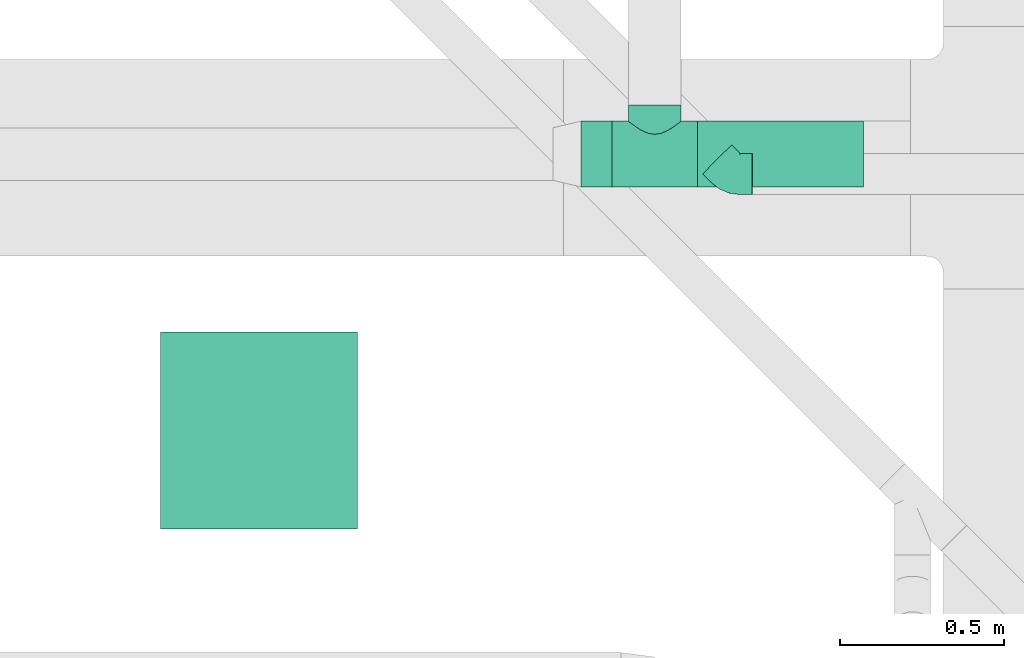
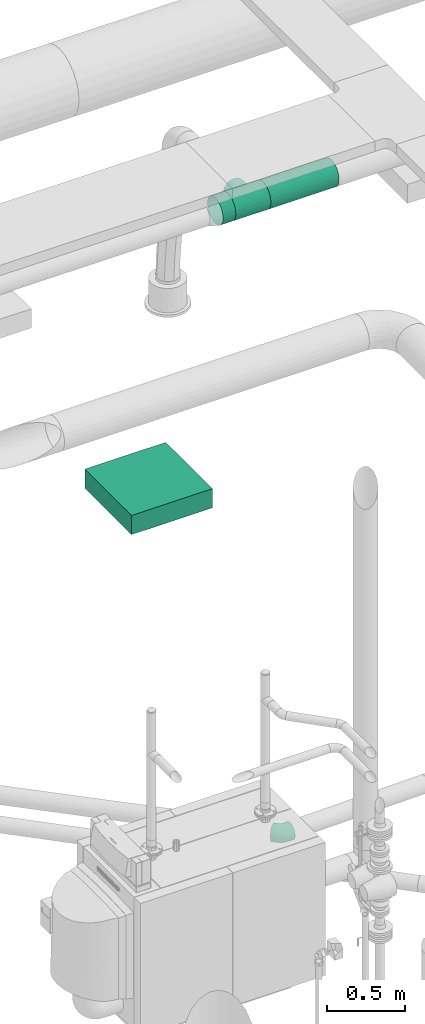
# One storey, part 167 of 374: 2 flow fittings, 2 flow segments, 1 distribution element.
"""IFC2X3 building model written with IfcOpenShell, lengths in metres."""

import ifcopenshell
import ifcopenshell.guid

model = None  # the IFC model being written
_history = None  # IfcOwnerHistory: only IFC2X3 demands one
_inside = {}  # id of a spatial element -> (the spatial element, [elements in it])
_under = {}  # id of a project, library or spatial element -> (it, [spatial elements below it])
_declared = {}  # id of a project -> (the project, [libraries it declares])
_typed = {}  # id of a type object -> (the type object, [elements of that type])
_made_of = {}  # id of a material, layer set ... -> (it, [elements and type objects made of it])


def new_model(schema):
    """Start an empty IFC model of exactly this schema.

    Asked for "IFC4X3", IfcOpenShell would pick the latest addendum, in which some entities
    have other attributes; the version numbers below select the first issue.
    IFC2X3 requires an IfcOwnerHistory on every rooted entity: one is made here for all.
    """
    global model, _history
    if schema == "IFC4X3":
        model = ifcopenshell.file(schema_version=(4, 3, 0, 0))
    else:
        model = ifcopenshell.file(schema=schema)
    _inside.clear()
    _under.clear()
    _declared.clear()
    _typed.clear()
    _made_of.clear()
    _history = None
    if model.schema == "IFC2X3":
        org = make("IfcOrganization", Name="unknown")
        user = make(
            "IfcPersonAndOrganization",
            ThePerson=make("IfcPerson", FamilyName="unknown"),
            TheOrganization=org,
        )
        app = make(
            "IfcApplication",
            ApplicationDeveloper=org,
            Version="unknown",
            ApplicationFullName="unknown",
            ApplicationIdentifier="unknown",
        )
        _history = make(
            "IfcOwnerHistory",
            OwningUser=user,
            OwningApplication=app,
            ChangeAction="ADDED",
            CreationDate=0,
        )
    return model


def make(cls, **values):
    """One entity of the class cls with the attributes given. An attribute that is None is left unset."""
    return model.create_entity(
        cls, **{name: value for name, value in values.items() if value is not None}
    )


def rooted(cls, **values):
    """An entity with a GlobalId (a new one), such as an element, a storey or a relation."""
    return make(cls, GlobalId=ifcopenshell.guid.new(), OwnerHistory=_history, **values)


def si_unit(unit_type, name, prefix=None):
    """IfcSIUnit, for example si_unit("LENGTHUNIT", "METRE", prefix="MILLI")."""
    return make("IfcSIUnit", UnitType=unit_type, Prefix=prefix, Name=name)


def assignment(units):
    """IfcUnitAssignment: the units of a project."""
    return None if units is None else make("IfcUnitAssignment", Units=units)


def point(xyz):
    """IfcCartesianPoint."""
    return None if xyz is None else make("IfcCartesianPoint", Coordinates=xyz)


def direction(xyz):
    """IfcDirection."""
    return None if xyz is None else make("IfcDirection", DirectionRatios=xyz)


def frame(location, z_axis=None, x_axis=None):
    """IfcAxis2Placement3D, a coordinate frame: its origin and axes. An axis left out is left unset."""
    return make(
        "IfcAxis2Placement3D",
        Location=point(location),
        Axis=direction(z_axis),
        RefDirection=direction(x_axis),
    )


def frame_2d(location, x_axis=None):
    """IfcAxis2Placement2D, a coordinate frame in the plane: its origin and x axis."""
    return make(
        "IfcAxis2Placement2D", Location=point(location), RefDirection=direction(x_axis)
    )


def origin():
    """The frame at (0, 0, 0) with its axes left unset."""
    return frame((0.0, 0.0, 0.0))


def place(relative_to, where):
    """IfcLocalPlacement: puts the frame where relative to a parent placement (None: the world)."""
    return make(
        "IfcLocalPlacement", PlacementRelTo=relative_to, RelativePlacement=where
    )


def context(
    kind, dimensions, precision=None, world=None, true_north=None, identifier=None
):
    """IfcGeometricRepresentationContext, for example the 3D "Model" context."""
    return make(
        "IfcGeometricRepresentationContext",
        ContextIdentifier=identifier,
        ContextType=kind,
        CoordinateSpaceDimension=dimensions,
        Precision=precision,
        WorldCoordinateSystem=world,
        TrueNorth=true_north,
    )


def subcontext(parent, identifier, kind, view, scale=None):
    """IfcGeometricRepresentationSubContext, for example "Body" below "Model"."""
    return make(
        "IfcGeometricRepresentationSubContext",
        ContextIdentifier=identifier,
        ContextType=kind,
        ParentContext=parent,
        TargetScale=scale,
        TargetView=view,
    )


def project(units=None, contexts=None):
    """IfcProject with its units and contexts."""
    return rooted(
        "IfcProject",
        Name="project",
        RepresentationContexts=contexts,
        UnitsInContext=assignment(units),
    )


def spatial(cls, under=None, at=None, **own):
    """A site, building, storey or space (cls), placed at a placement, below another one or the project."""
    s = rooted(cls, ObjectPlacement=at, **own)
    if under is not None:
        _under.setdefault(under.id(), (under, []))[1].append(s)
    return s


def profile(cls, at=None, kind="AREA", **sizes):
    """A parametric profile (cls). Its sizes go by their IFC names, for example OverallWidth=200.0."""
    return make(cls, ProfileType=kind, Position=at, **sizes)


def rectangle(**sizes):
    """IfcRectangleProfileDef."""
    return profile("IfcRectangleProfileDef", **sizes)


def extrude(swept, where, along, depth):
    """IfcExtrudedAreaSolid: the profile swept, set in the frame where, extruded along a direction by depth."""
    return make(
        "IfcExtrudedAreaSolid",
        SweptArea=swept,
        Position=where,
        ExtrudedDirection=direction(along),
        Depth=depth,
    )


def faces_of(points, faces, orient=None, outer=None):
    """IfcFace entities. A face is a list of loops; a loop is a list of indices into points, from 0.

    orient and outer hold one flag for each loop. By default every Orientation is true, the
    first loop of a face is its IfcFaceOuterBound and the others are IfcFaceBound.
    """
    made = []
    for i, loops in enumerate(faces):
        bounds = []
        for j, loop in enumerate(loops):
            is_outer = j == 0 if outer is None else outer[i][j]
            bounds.append(
                make(
                    "IfcFaceOuterBound" if is_outer else "IfcFaceBound",
                    Bound=make("IfcPolyLoop", Polygon=[points[k] for k in loop]),
                    Orientation=True if orient is None else orient[i][j],
                )
            )
        made.append(make("IfcFace", Bounds=bounds))
    return made


def open_shell(faces, orient=None, outer=None):
    """The faces of one IfcOpenShell. surface_model builds it on its shared points."""
    return ("IfcOpenShell", faces, orient, outer)


def surface_model(cls, points, shells):
    """IfcFaceBasedSurfaceModel or IfcShellBasedSurfaceModel (cls): surfaces that need not close."""
    shared = [point(p) for p in points]
    made = [make(c, CfsFaces=faces_of(shared, fs, o, b)) for c, fs, o, b in shells]
    if cls == "IfcFaceBasedSurfaceModel":
        return make(cls, FbsmFaces=made)
    return make(cls, SbsmBoundary=made)


def shape(context_of_items, identifier, shape_type, items):
    """IfcShapeRepresentation: the items that make up one representation, for example the "Body"."""
    return make(
        "IfcShapeRepresentation",
        ContextOfItems=context_of_items,
        RepresentationIdentifier=identifier,
        RepresentationType=shape_type,
        Items=items,
    )


def source(mapping_origin, context_of_items, identifier, shape_type, items):
    """IfcRepresentationMap: a shape defined once, which mapped items show again and again."""
    return make(
        "IfcRepresentationMap",
        MappingOrigin=mapping_origin,
        MappedRepresentation=shape(context_of_items, identifier, shape_type, items),
    )


def transform(
    local_origin,
    x_axis=None,
    y_axis=None,
    z_axis=None,
    scale=None,
    scale2=None,
    scale3=None,
    uniform=True,
):
    """IfcCartesianTransformationOperator3D, or its non-uniform kind. x_axis, y_axis, z_axis: its Axis1, 2, 3."""
    if uniform:
        return make(
            "IfcCartesianTransformationOperator3D",
            Axis1=direction(x_axis),
            Axis2=direction(y_axis),
            LocalOrigin=point(local_origin),
            Scale=scale,
            Axis3=direction(z_axis),
        )
    return make(
        "IfcCartesianTransformationOperator3DnonUniform",
        Axis1=direction(x_axis),
        Axis2=direction(y_axis),
        LocalOrigin=point(local_origin),
        Scale=scale,
        Axis3=direction(z_axis),
        Scale2=scale2,
        Scale3=scale3,
    )


def mapped(mapping_source, mapping_target):
    """IfcMappedItem: shows the shape of a source again, moved by a transform."""
    return make(
        "IfcMappedItem", MappingSource=mapping_source, MappingTarget=mapping_target
    )


def made_of(thing, what):
    """Note that an element or type object is made of a material, layer set ...; save() writes the relation."""
    if what is not None:
        _made_of.setdefault(what.id(), (what, []))[1].append(thing)
    return thing


def element(
    cls,
    number,
    at=None,
    inside=None,
    cuts=None,
    type_object=None,
    material=None,
    context=None,
    identifier="Body",
    shape_type=None,
    held_by="IfcProductDefinitionShape",
    body=None,
    shapes=None,
    **own,
):
    """One element of the class cls, such as IfcWall. Its Tag is "e" and its number.

    at: its placement. inside: the storey or other place that contains it. cuts: it is an
    opening in that element (IfcRelVoidsElement). A single representation is given by context,
    identifier, shape_type and body (its items); several are given by shapes. held_by: the class
    of the entity that holds the representations. save() writes the other relations.
    """
    e = rooted(cls, Tag="e%d" % number, ObjectPlacement=at, **own)
    if body is not None:
        shapes = [shape(context, identifier, shape_type, body)]
    if shapes is not None:
        e.Representation = make(held_by, Representations=shapes)
    if inside is not None:
        _inside.setdefault(inside.id(), (inside, []))[1].append(e)
    if cuts is not None:
        rooted(
            "IfcRelVoidsElement", RelatingBuildingElement=cuts, RelatedOpeningElement=e
        )
    if type_object is not None:
        _typed.setdefault(type_object.id(), (type_object, []))[1].append(e)
    return made_of(e, material)


def aggregate(whole, parts):
    """IfcRelAggregates: a whole, such as a stair, and the parts it consists of."""
    return rooted("IfcRelAggregates", RelatingObject=whole, RelatedObjects=parts)


def save(model, path):
    """Write the relations noted so far, then the file.

    IfcRelAggregates (storeys below a building ...), IfcRelContainedInSpatialStructure (elements
    in a storey), IfcRelDefinesByType, IfcRelAssociatesMaterial and IfcRelDeclares: one each for
    every whole, place, type object, material and project.
    """
    for whole, parts in _under.values():
        aggregate(whole, parts)
    for where, things in _inside.values():
        rooted(
            "IfcRelContainedInSpatialStructure",
            RelatedElements=things,
            RelatingStructure=where,
        )
    for kind, things in _typed.values():
        rooted("IfcRelDefinesByType", RelatedObjects=things, RelatingType=kind)
    for what, things in _made_of.values():
        rooted("IfcRelAssociatesMaterial", RelatedObjects=things, RelatingMaterial=what)
    for by, libraries in _declared.values():
        rooted("IfcRelDeclares", RelatingContext=by, RelatedDefinitions=libraries)
    model.write(path)


model = new_model("IFC2X3")

# Units and contexts
model_context = context("Model", 3, precision=1e-05, world=origin(), true_north=direction((-0.4480736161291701, 0.8939966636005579)))
body_context = subcontext(model_context, "Body", "Model", "MODEL_VIEW")
ifc_project = project(units=[si_unit("LENGTHUNIT", "METRE"), si_unit("AREAUNIT", "SQUARE_METRE"), si_unit("VOLUMEUNIT", "CUBIC_METRE"), si_unit("PLANEANGLEUNIT", "RADIAN"), si_unit("THERMODYNAMICTEMPERATUREUNIT", "KELVIN"), si_unit("MASSUNIT", "GRAM", prefix="KILO"), si_unit("TIMEUNIT", "SECOND")], contexts=[model_context])

# Site, building, storey
site_placement = place(None, origin())
site = spatial("IfcSite", under=ifc_project, at=site_placement, Name="Site 1", CompositionType="ELEMENT")
building_placement = place(site_placement, origin())
building = spatial("IfcBuilding", under=site, at=building_placement, Name="Undefined", CompositionType="ELEMENT")
storey_placement = place(building_placement, origin())
storey = spatial("IfcBuildingStorey", under=building, at=storey_placement, Name="Rez de chauss\x8ee", CompositionType="ELEMENT", Elevation=0.0)

# Flow segments
shared_shape_1 = source(origin(), body_context, "Body", "SurfaceModel", [
    surface_model("IfcFaceBasedSurfaceModel", [(0.0, 0.02610523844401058, 0.0), (0.0, 0.0, 0.0), (0.09500000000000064, -7.105427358e-15, 0.0), (0.09500000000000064, 0.02610523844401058, 0.0), (0.0, -0.025215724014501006, -0.006756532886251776), (0.09500000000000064, -0.025215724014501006, -0.006756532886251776), (0.0, -0.04782352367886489, -0.019809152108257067), (0.09500000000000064, -0.04782352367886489, -0.019809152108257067), (0.0, -0.066282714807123, -0.038268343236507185), (0.09500000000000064, -0.066282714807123, -0.038268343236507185), (0.0, -0.07933533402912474, -0.06087614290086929), (0.09500000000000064, -0.07933533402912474, -0.06087614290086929), (0.0, -0.08609186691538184, -0.08609186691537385), (0.09500000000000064, -0.08609186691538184, -0.08609186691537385), (0.0, -0.08609186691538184, -0.11219710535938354), (0.09500000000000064, -0.08609186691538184, -0.11219710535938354), (0.0, -0.07933533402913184, -0.1374128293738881), (0.09500000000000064, -0.07933533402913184, -0.1374128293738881), (0.0, -0.066282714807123, -0.16002062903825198), (0.09500000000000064, -0.066282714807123, -0.16002062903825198), (0.0, -0.04782352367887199, -0.17847982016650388), (0.09500000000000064, -0.04782352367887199, -0.17847982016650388), (0.0, -0.025215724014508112, -0.19153243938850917), (0.09500000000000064, -0.025215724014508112, -0.19153243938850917), (0.0, -7.105427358e-15, -0.19828897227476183), (0.09500000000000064, -7.105427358e-15, -0.19828897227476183), (0.0, 0.026105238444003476, -0.19828897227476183), (0.09500000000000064, 0.026105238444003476, -0.19828897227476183), (0.0, 0.05132096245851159, -0.19153243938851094), (0.09500000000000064, 0.05132096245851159, -0.19153243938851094), (0.0, 0.07392876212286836, -0.17847982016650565), (0.09500000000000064, 0.07392876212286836, -0.17847982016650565), (0.0, 0.09238795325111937, -0.16002062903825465), (0.09500000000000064, 0.09238795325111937, -0.16002062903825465), (0.0, 0.10544057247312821, -0.13741282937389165), (0.09500000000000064, 0.10544057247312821, -0.13741282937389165), (0.0, 0.11219710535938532, -0.11219710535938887), (0.09500000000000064, 0.11219710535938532, -0.11219710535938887), (0.0, 0.11219710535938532, -0.08609186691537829), (0.09500000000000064, 0.11219710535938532, -0.08609186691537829), (0.0, 0.10544057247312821, -0.06087614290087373), (0.09500000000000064, 0.10544057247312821, -0.06087614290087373), (0.0, 0.09238795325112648, -0.03826834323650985), (0.09500000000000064, 0.09238795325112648, -0.03826834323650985), (0.0, 0.07392876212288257, -0.019809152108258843), (0.09500000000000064, 0.07392876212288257, -0.019809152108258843), (0.0, 0.05132096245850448, -0.006756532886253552), (0.09500000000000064, 0.05132096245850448, -0.006756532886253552)], [open_shell([[[0, 1, 2, 3]], [[1, 4, 5, 2]], [[4, 6, 7, 5]], [[6, 8, 9, 7]], [[8, 10, 11, 9]], [[10, 12, 13, 11]], [[12, 14, 15, 13]], [[14, 16, 17, 15]], [[16, 18, 19, 17]], [[18, 20, 21, 19]], [[20, 22, 23, 21]], [[22, 24, 25, 23]], [[24, 26, 27, 25]], [[26, 28, 29, 27]], [[28, 30, 31, 29]], [[30, 32, 33, 31]], [[32, 34, 35, 33]], [[34, 36, 37, 35]], [[36, 38, 39, 37]], [[38, 40, 41, 39]], [[40, 42, 43, 41]], [[42, 44, 45, 43]], [[44, 46, 47, 45]], [[46, 0, 3, 47]]])]),
])
flow_segment_1_placement = place(storey_placement, origin())
element("IfcFlowSegment", 1, at=flow_segment_1_placement, inside=storey, Name="Manchon", ObjectType="Manchon", context=body_context, shape_type="MappedRepresentation", body=[
    mapped(shared_shape_1, transform((56.1592401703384, 15.980880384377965, 3.8965925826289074), x_axis=(-1.0, 0.0, 0.0), y_axis=(7.266545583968e-12, -0.9914448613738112, 0.13052619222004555), z_axis=(0.0, 0.13052619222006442, 0.9914448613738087))),
])
shared_shape_2 = source(origin(), body_context, "Body", "SurfaceModel", [
    surface_model("IfcFaceBasedSurfaceModel", [(0.0, 0.02610523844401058, 0.0), (0.0, 0.0, 0.0), (0.5060000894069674, 4.4408921e-16, 4.4408921e-16), (0.5060000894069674, 0.026105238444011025, 0.0), (0.0, -0.025215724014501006, -0.006756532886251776), (0.5060000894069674, -0.02521572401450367, -0.006756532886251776), (0.0, -0.04782352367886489, -0.019809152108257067), (0.5060000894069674, -0.04782352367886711, -0.019809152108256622), (0.0, -0.066282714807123, -0.038268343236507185), (0.5060000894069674, -0.06628271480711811, -0.03826834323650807), (0.0, -0.07933533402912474, -0.06087614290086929), (0.5060000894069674, -0.0793353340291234, -0.060876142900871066), (0.0, -0.08609186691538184, -0.08609186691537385), (0.5060000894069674, -0.08609186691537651, -0.08609186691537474), (0.0, -0.08609186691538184, -0.11219710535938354), (0.5060000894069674, -0.08609186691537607, -0.11219710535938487), (0.0, -0.07933533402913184, -0.1374128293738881), (0.5060000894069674, -0.0793353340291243, -0.137412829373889), (0.0, -0.066282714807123, -0.16002062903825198), (0.5060000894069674, -0.06628271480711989, -0.16002062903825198), (0.0, -0.04782352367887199, -0.17847982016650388), (0.5060000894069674, -0.04782352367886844, -0.17847982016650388), (0.0, -0.025215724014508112, -0.19153243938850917), (0.5060000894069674, -0.025215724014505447, -0.19153243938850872), (0.0, -7.105427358e-15, -0.19828897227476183), (0.5060000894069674, -8.8817842e-16, -0.1982889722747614), (0.0, 0.026105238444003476, -0.19828897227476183), (0.5060000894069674, 0.026105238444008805, -0.19828897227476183), (0.0, 0.05132096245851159, -0.19153243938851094), (0.5060000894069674, 0.051320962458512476, -0.1915324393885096), (0.0, 0.07392876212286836, -0.17847982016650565), (0.5060000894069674, 0.07392876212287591, -0.17847982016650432), (0.0, 0.09238795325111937, -0.16002062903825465), (0.5060000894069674, 0.09238795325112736, -0.16002062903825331), (0.0, 0.10544057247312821, -0.13741282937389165), (0.5060000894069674, 0.1054405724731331, -0.13741282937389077), (0.0, 0.11219710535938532, -0.11219710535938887), (0.5060000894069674, 0.11219710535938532, -0.11219710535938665), (0.0, 0.11219710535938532, -0.08609186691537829), (0.5060000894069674, 0.1121971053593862, -0.08609186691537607), (0.0, 0.10544057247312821, -0.06087614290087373), (0.5060000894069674, 0.10544057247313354, -0.0608761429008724), (0.0, 0.09238795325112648, -0.03826834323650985), (0.5060000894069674, 0.0923879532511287, -0.038268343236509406), (0.0, 0.07392876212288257, -0.019809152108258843), (0.5060000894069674, 0.07392876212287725, -0.01980915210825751), (0.0, 0.05132096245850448, -0.006756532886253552), (0.5060000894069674, 0.05132096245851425, -0.006756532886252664)], [open_shell([[[0, 1, 2, 3]], [[1, 4, 5, 2]], [[4, 6, 7, 5]], [[6, 8, 9, 7]], [[8, 10, 11, 9]], [[10, 12, 13, 11]], [[12, 14, 15, 13]], [[14, 16, 17, 15]], [[16, 18, 19, 17]], [[18, 20, 21, 19]], [[20, 22, 23, 21]], [[22, 24, 25, 23]], [[24, 26, 27, 25]], [[26, 28, 29, 27]], [[28, 30, 31, 29]], [[30, 32, 33, 31]], [[32, 34, 35, 33]], [[34, 36, 37, 35]], [[36, 38, 39, 37]], [[38, 40, 41, 39]], [[40, 42, 43, 41]], [[42, 44, 45, 43]], [[44, 46, 47, 45]], [[46, 0, 3, 47]]])]),
])
flow_segment_2_placement = place(storey_placement, origin())
element("IfcFlowSegment", 2, at=flow_segment_2_placement, inside=storey, Name="Tube", ObjectType="Tube", context=body_context, shape_type="MappedRepresentation", body=[
    mapped(shared_shape_2, transform((56.92524025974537, 15.980880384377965, 3.8965925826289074), x_axis=(-1.0, 0.0, 0.0), y_axis=(7.266545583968e-12, -0.9914448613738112, 0.13052619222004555), z_axis=(0.0, 0.13052619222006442, 0.9914448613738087))),
])

# Flow fittings
shared_shape_3 = source(origin(), body_context, "Body", "SurfaceModel", [
    surface_model("IfcFaceBasedSurfaceModel", [(0.0, 0.02610523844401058, 0.0), (0.0, 0.0, 0.0), (0.2599999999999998, -7.105427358e-15, 0.0), (0.2599999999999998, 0.026105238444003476, -1.776356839e-15), (0.0, -0.025215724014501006, -0.006756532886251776), (0.2599999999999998, -0.025215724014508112, -0.006756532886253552), (0.0, -0.04782352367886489, -0.019809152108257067), (0.2599999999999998, -0.04782352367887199, -0.019809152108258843), (0.0, -0.066282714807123, -0.038268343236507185), (0.2599999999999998, -0.0662827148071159, -0.03826834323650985), (0.0, -0.07933533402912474, -0.06087614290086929), (0.2599999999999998, -0.07933533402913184, -0.060876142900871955), (0.0, -0.08609186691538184, -0.08609186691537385), (0.2599999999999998, -0.08609186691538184, -0.08609186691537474), (0.0, -0.08609186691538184, -0.11219710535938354), (0.2599999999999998, -0.08609186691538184, -0.1121971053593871), (0.0, -0.07933533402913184, -0.1374128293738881), (0.2599999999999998, -0.07933533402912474, -0.13741282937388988), (0.0, -0.066282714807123, -0.16002062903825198), (0.2599999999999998, -0.066282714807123, -0.16002062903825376), (0.0, -0.04782352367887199, -0.17847982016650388), (0.2599999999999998, -0.04782352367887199, -0.17847982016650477), (0.0, -0.025215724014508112, -0.19153243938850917), (0.2599999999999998, -0.025215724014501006, -0.19153243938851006), (0.0, -7.105427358e-15, -0.19828897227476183), (0.2599999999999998, -7.105427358e-15, -0.1982889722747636), (0.0, 0.026105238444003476, -0.19828897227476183), (0.2599999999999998, 0.026105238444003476, -0.19828897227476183), (0.0, 0.05132096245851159, -0.19153243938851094), (0.2599999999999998, 0.05132096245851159, -0.19153243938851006), (0.0, 0.07392876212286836, -0.17847982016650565), (0.2599999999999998, 0.07392876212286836, -0.17847982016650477), (0.0, 0.09238795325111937, -0.16002062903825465), (0.2599999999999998, 0.09238795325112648, -0.16002062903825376), (0.0, 0.10544057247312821, -0.13741282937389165), (0.2599999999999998, 0.10544057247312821, -0.13741282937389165), (0.0, 0.11219710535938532, -0.11219710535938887), (0.2599999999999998, 0.11219710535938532, -0.1121971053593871), (0.0, 0.11219710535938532, -0.08609186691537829), (0.2599999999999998, 0.11219710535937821, -0.08609186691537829), (0.0, 0.10544057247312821, -0.06087614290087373), (0.2599999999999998, 0.10544057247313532, -0.060876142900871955), (0.0, 0.09238795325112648, -0.03826834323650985), (0.2599999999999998, 0.09238795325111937, -0.03826834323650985), (0.0, 0.07392876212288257, -0.019809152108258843), (0.2599999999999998, 0.07392876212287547, -0.019809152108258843), (0.0, 0.05132096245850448, -0.006756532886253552), (0.2599999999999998, 0.05132096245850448, -0.006756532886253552), (0.20999999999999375, 0.11219710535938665, -0.11219710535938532), (0.2072740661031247, 0.10734595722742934, -0.13244263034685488), (0.2072740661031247, 0.15906673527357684, -0.13925179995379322), (0.20999999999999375, 0.16176934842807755, -0.11872341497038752), (0.19928203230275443, 0.09869899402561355, -0.15076520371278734), (0.19928203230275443, 0.15654830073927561, -0.15838120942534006), (0.18656854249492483, 0.08742558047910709, -0.16599254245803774), (0.18656854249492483, 0.15438567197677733, -0.1748080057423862), (0.1699999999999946, 0.07550360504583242, -0.17724617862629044), (0.1699999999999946, 0.15272622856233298, -0.18741272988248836), (0.15070552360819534, 0.06589550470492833, -0.18404224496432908), (0.15070552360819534, 0.15168305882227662, -0.19533639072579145), (0.12999999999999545, 0.06209721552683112, -0.18629164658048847), (0.12999999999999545, 0.15132725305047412, -0.1980390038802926), (0.10929447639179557, 0.06589550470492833, -0.18404224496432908), (0.10929447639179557, 0.15168305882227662, -0.19533639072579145), (0.0899999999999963, 0.07550360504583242, -0.17724617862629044), (0.0899999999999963, 0.15272622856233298, -0.18741272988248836), (0.07343145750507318, 0.08742558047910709, -0.16599254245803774), (0.07343145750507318, 0.15438567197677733, -0.1748080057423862), (0.06071796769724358, 0.09869899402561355, -0.15076520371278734), (0.06071796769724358, 0.15654830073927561, -0.15838120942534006), (0.052725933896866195, 0.10734595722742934, -0.13244263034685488), (0.052725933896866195, 0.15906673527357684, -0.13925179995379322), (0.04999999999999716, 0.11219710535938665, -0.11219710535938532), (0.04999999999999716, 0.16176934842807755, -0.11872341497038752), (0.052725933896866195, 0.11275118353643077, -0.09138586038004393), (0.052725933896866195, 0.16447196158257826, -0.09819502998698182), (0.06071796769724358, 0.10914108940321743, -0.07144961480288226), (0.06071796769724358, 0.16699039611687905, -0.07906562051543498), (0.07343145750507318, 0.10219293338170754, -0.053823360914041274), (0.07343145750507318, 0.16915302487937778, -0.06263882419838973), (0.0899999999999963, 0.09358984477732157, -0.03986754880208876), (0.0899999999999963, 0.17081246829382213, -0.05003410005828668), (0.10929447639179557, 0.0860680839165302, -0.030816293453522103), (0.10929447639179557, 0.1718556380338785, -0.04211043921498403), (0.12999999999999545, 0.08298140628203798, -0.027660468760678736), (0.12999999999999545, 0.17221144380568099, -0.039407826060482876), (0.15070552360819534, 0.0860680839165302, -0.030816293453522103), (0.15070552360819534, 0.1718556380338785, -0.04211043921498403), (0.1699999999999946, 0.09358984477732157, -0.03986754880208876), (0.1699999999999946, 0.17081246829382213, -0.05003410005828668), (0.18656854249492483, 0.10219293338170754, -0.053823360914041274), (0.18656854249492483, 0.16915302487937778, -0.06263882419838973), (0.19928203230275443, 0.10914108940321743, -0.07144961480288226), (0.19928203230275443, 0.16699039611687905, -0.07906562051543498), (0.2072740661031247, 0.11275118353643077, -0.09138586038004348), (0.2072740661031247, 0.16447196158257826, -0.09819502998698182)], [open_shell([[[0, 1, 2, 3]], [[1, 4, 5, 2]], [[4, 6, 7, 5]], [[6, 8, 9, 7]], [[8, 10, 11, 9]], [[10, 12, 13, 11]], [[12, 14, 15, 13]], [[14, 16, 17, 15]], [[16, 18, 19, 17]], [[18, 20, 21, 19]], [[20, 22, 23, 21]], [[22, 24, 25, 23]], [[24, 26, 27, 25]], [[26, 28, 29, 27]], [[28, 30, 31, 29]], [[30, 32, 33, 31]], [[32, 34, 35, 33]], [[34, 36, 37, 35]], [[36, 38, 39, 37]], [[38, 40, 41, 39]], [[40, 42, 43, 41]], [[42, 44, 45, 43]], [[44, 46, 47, 45]], [[46, 0, 3, 47]], [[48, 49, 50, 51]], [[49, 52, 53, 50]], [[52, 54, 55, 53]], [[54, 56, 57, 55]], [[56, 58, 59, 57]], [[58, 60, 61, 59]], [[60, 62, 63, 61]], [[62, 64, 65, 63]], [[64, 66, 67, 65]], [[66, 68, 69, 67]], [[68, 70, 71, 69]], [[70, 72, 73, 71]], [[72, 74, 75, 73]], [[74, 76, 77, 75]], [[76, 78, 79, 77]], [[78, 80, 81, 79]], [[80, 82, 83, 81]], [[82, 84, 85, 83]], [[84, 86, 87, 85]], [[86, 88, 89, 87]], [[88, 90, 91, 89]], [[90, 92, 93, 91]], [[92, 94, 95, 93]], [[94, 48, 51, 95]]])]),
])
flow_fitting_1_placement = place(storey_placement, origin())
element("IfcFlowFitting", 3, at=flow_fitting_1_placement, inside=storey, Name="Pièce en té 90°", ObjectType="Pièce en té 90°", context=body_context, shape_type="MappedRepresentation", body=[
    mapped(shared_shape_3, transform((56.1592401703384, 15.929116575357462, 3.8965925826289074), x_axis=(1.0, 0.0, 0.0), y_axis=(0.0, 0.9914448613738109, 0.1305261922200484), z_axis=(0.0, -0.1305261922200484, 0.9914448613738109))),
])
shared_shape_4 = source(origin(), body_context, "Body", "SurfaceModel", [
    surface_model("IfcFaceBasedSurfaceModel", [(0.03640000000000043, 0.0, 0.0), (0.03640000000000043, 0.01631577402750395, -8.8817842e-16), (0.0, 0.0163157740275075, 0.0), (0.0, 0.0, 0.0), (0.03640000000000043, 0.032075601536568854, -0.00422283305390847), (0.0, 0.03207560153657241, -0.004222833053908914), (0.03640000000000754, 0.04620547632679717, -0.012380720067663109), (0.0, 0.04620547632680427, -0.012380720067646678), (0.03640000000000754, 0.057742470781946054, -0.0239177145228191), (0.0, 0.05774247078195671, -0.023917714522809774), (0.03640000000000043, 0.06590035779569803, -0.03804758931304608), (0.0, 0.06590035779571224, -0.03804758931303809), (0.03640000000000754, 0.07012319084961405, -0.05380741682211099), (0.0, 0.0701231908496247, -0.05380741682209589), (0.03640000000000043, 0.07012319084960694, -0.07012319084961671), (0.0, 0.0701231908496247, -0.07012319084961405), (0.03640000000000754, 0.06590035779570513, -0.08588301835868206), (0.0, 0.06590035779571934, -0.08588301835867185), (0.03640000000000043, 0.05774247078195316, -0.10001289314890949), (0.0, 0.05774247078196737, -0.10001289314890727), (0.03640000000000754, 0.04620547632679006, -0.11154988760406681), (0.0, 0.04620547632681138, -0.11154988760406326), (0.03640000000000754, 0.032075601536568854, -0.11970777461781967), (0.0, 0.03207560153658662, -0.11970777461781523), (0.03640000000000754, 0.01631577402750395, -0.12393060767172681), (0.0, 0.016315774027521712, -0.12393060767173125), (0.03640000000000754, -1.4210854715e-14, -0.12393060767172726), (0.0, 1.4210854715e-14, -0.12393060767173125), (0.03640000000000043, -0.015759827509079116, -0.11970777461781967), (0.0, -0.015759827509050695, -0.11970777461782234), (0.03640000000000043, -0.02988970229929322, -0.11154988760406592), (0.0, -0.02988970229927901, -0.11154988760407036), (0.03640000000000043, -0.041426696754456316, -0.1000128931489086), (0.0, -0.04142669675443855, -0.10001289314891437), (0.03640000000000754, -0.04958458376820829, -0.08588301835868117), (0.0, -0.04958458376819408, -0.08588301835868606), (0.03639999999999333, -0.053807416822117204, -0.07012319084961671), (0.0, -0.053807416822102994, -0.07012319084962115), (0.03640000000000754, -0.053807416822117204, -0.05380741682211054), (0.0, -0.053807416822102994, -0.053807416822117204), (0.03640000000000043, -0.04958458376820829, -0.038047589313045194), (0.0, -0.04958458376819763, -0.038047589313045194), (0.03640000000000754, -0.04142669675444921, -0.023917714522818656), (0.0, -0.04142669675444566, -0.02391771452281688), (0.03640000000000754, -0.02988970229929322, -0.012380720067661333), (0.0, -0.029889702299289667, -0.012380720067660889), (0.03640000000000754, -0.01575982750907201, -0.00422283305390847), (0.0, -0.015759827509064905, -0.004222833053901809), (-0.03192402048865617, 0.06595715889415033, -0.07067165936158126), (-0.03247509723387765, 0.06588524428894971, -0.054365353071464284), (-0.06167338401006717, 0.05374285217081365, -0.07227970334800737), (-0.06273799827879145, 0.05346009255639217, -0.056001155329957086), (-0.08722157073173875, 0.03431230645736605, -0.07483778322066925), (-0.08872720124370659, 0.033694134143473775, -0.05860339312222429), (-0.030308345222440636, 0.06194516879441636, -0.08640372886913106), (-0.058552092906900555, 0.05034902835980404, -0.08793038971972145), (-0.08280728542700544, 0.03190186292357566, -0.09035900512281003), (-0.027738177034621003, 0.054122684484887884, -0.100489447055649), (-0.05358683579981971, 0.04350990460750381, -0.10188664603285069), (-0.07578517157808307, 0.026627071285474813, -0.10410931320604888), (-0.024388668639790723, 0.04302279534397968, -0.11196889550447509), (-0.04711598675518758, 0.03369155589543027, -0.1131973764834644), (-0.06663377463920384, 0.018847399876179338, -0.11515164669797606), (-0.020488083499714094, 0.029401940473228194, -0.12005976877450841), (-0.039580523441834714, 0.0215630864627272, -0.12109177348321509), (-0.05597674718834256, 0.009093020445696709, -0.12273348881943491), (-0.016302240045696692, 0.014188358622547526, -0.12421068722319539), (-0.031493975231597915, 0.00795103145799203, -0.12503184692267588), (-0.04454034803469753, -0.001971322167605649, -0.126338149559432), (-0.012116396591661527, -0.0015811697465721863, -0.12413877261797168), (-0.023407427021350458, -0.0062169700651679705, -0.12474908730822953), (-0.0331039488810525, -0.013591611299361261, -0.12571997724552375), (-0.00821581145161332, -0.01683197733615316, -0.11984892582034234), (-0.01587196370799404, -0.019975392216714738, -0.12026276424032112), (-0.022446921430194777, -0.02497594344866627, -0.12092109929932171), (-0.004866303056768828, -0.03052474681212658, -0.1116334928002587), (-0.009401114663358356, -0.0323866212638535, -0.11187861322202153), (-0.013295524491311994, -0.03534849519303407, -0.11226855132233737), (-0.0022961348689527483, -0.041726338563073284, -0.1000523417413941), (-0.004435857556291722, -0.04260485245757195, -0.10016800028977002), (-0.006273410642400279, -0.04400239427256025, -0.1003519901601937), (-0.000680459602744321, -0.04967338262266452, -0.08589470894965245), (-0.0013145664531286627, -0.04993373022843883, -0.08592898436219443), (-0.0018591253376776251, -0.05034789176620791, -0.08598350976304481), (-0.0001293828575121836, -0.053824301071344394, -0.07012541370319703), (-0.0002499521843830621, -0.053873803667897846, -0.07013193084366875), (-0.00035349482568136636, -0.05395255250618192, -0.07014229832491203), (-0.0006804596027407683, -0.05389621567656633, -0.05381910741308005), (-0.0013145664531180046, -0.05415656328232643, -0.053853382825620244), (-0.0018591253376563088, -0.05457072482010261, -0.053907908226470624), (-0.002296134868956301, -0.049884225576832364, -0.03808703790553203), (-0.004435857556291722, -0.050762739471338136, -0.03820269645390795), (-0.006273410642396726, -0.05216028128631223, -0.0383866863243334), (-0.004866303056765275, -0.042061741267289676, -0.02400131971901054), (-0.009401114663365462, -0.0439236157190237, -0.02424644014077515), (-0.013295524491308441, -0.046885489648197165, -0.024636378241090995), (-0.008215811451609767, -0.030961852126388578, -0.012521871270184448), (-0.01587196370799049, -0.034105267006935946, -0.012935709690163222), (-0.02244692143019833, -0.03910581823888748, -0.013594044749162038), (-0.012116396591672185, -0.017340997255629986, -0.004430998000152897), (-0.023407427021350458, -0.021976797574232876, -0.005041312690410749), (-0.03310394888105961, -0.029351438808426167, -0.006012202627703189), (-0.01630224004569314, -0.0021274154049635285, -0.0002800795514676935), (-0.03149397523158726, -0.008364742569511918, -0.0011012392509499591), (-0.04454034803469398, -0.018287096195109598, -0.002407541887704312), (-0.02048808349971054, 0.013642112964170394, -0.00035199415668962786), (-0.039580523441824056, 0.005803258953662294, -0.0013839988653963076), (-0.055976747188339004, -0.0066668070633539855, -0.0030257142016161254), (-0.024388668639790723, 0.028892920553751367, -0.004641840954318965), (-0.04711598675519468, 0.01956168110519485, -0.005870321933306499), (-0.06663377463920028, 0.004717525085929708, -0.007824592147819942), (-0.027738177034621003, 0.04258569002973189, -0.012857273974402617), (-0.05358683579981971, 0.03197291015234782, -0.014254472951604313), (-0.07578517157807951, 0.015090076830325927, -0.01647714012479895), (-0.03030834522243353, 0.0537872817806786, -0.024438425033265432), (-0.058552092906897, 0.04219114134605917, -0.02596508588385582), (-0.08280728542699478, 0.023743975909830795, -0.02839370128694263), (-0.03192402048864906, 0.061734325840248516, -0.038596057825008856), (-0.06167338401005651, 0.04952001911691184, -0.04020410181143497), (-0.08722157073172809, 0.03008947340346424, -0.042762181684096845), (-0.11296452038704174, 0.008798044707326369, -0.07819679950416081), (-0.11447015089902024, 0.008179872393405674, -0.0619624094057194), (-0.10855023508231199, 0.0063876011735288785, -0.09371802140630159), (-0.10152812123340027, 0.0011128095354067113, -0.10746832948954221), (-0.09237672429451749, -0.006666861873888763, -0.11851066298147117), (-0.08171969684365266, -0.016421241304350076, -0.12609250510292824), (-0.07028329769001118, -0.027485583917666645, -0.12969716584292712), (-0.05884689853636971, -0.03910587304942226, -0.12907899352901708), (-0.048189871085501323, -0.05049020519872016, -0.12428011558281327), (-0.03903847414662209, -0.060862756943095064, -0.11562756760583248), (-0.032016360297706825, -0.06951665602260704, -0.1037110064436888), (-0.02760207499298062, -0.07586215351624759, -0.08934252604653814), (-0.026096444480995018, -0.07946681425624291, -0.07350131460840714), (-0.02760207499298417, -0.08008498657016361, -0.05726692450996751), (-0.03201636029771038, -0.07767454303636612, -0.04174570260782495), (-0.03903847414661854, -0.07239975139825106, -0.027995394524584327), (-0.048189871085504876, -0.06462007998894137, -0.016953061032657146), (-0.05884689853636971, -0.05486570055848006, -0.009371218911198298), (-0.07028329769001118, -0.0438013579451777, -0.005766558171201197), (-0.0817196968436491, -0.03218106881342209, -0.006384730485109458), (-0.09237672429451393, -0.020796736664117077, -0.011183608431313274), (-0.10152812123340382, -0.01042418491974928, -0.019836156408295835), (-0.10855023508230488, -0.0017702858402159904, -0.03175271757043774), (-0.11296452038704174, 0.004575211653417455, -0.04612119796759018)], [open_shell([[[0, 1, 2, 3]], [[1, 4, 5, 2]], [[4, 6, 7, 5]], [[6, 8, 9, 7]], [[8, 10, 11, 9]], [[10, 12, 13, 11]], [[12, 14, 15, 13]], [[14, 16, 17, 15]], [[16, 18, 19, 17]], [[18, 20, 21, 19]], [[20, 22, 23, 21]], [[22, 24, 25, 23]], [[24, 26, 27, 25]], [[26, 28, 29, 27]], [[28, 30, 31, 29]], [[30, 32, 33, 31]], [[32, 34, 35, 33]], [[34, 36, 37, 35]], [[36, 38, 39, 37]], [[38, 40, 41, 39]], [[40, 42, 43, 41]], [[42, 44, 45, 43]], [[44, 46, 47, 45]], [[46, 0, 3, 47]], [[13, 15, 48, 49]], [[49, 48, 50, 51]], [[51, 50, 52, 53]], [[15, 17, 54, 48]], [[48, 54, 55, 50]], [[50, 55, 56, 52]], [[17, 19, 57, 54]], [[54, 57, 58, 55]], [[55, 58, 59, 56]], [[19, 21, 60, 57]], [[57, 60, 61, 58]], [[58, 61, 62, 59]], [[21, 23, 63, 60]], [[60, 63, 64, 61]], [[61, 64, 65, 62]], [[23, 25, 66, 63]], [[63, 66, 67, 64]], [[64, 67, 68, 65]], [[25, 27, 69, 66]], [[66, 69, 70, 67]], [[67, 70, 71, 68]], [[27, 29, 72, 69]], [[69, 72, 73, 70]], [[70, 73, 74, 71]], [[29, 31, 75, 72]], [[72, 75, 76, 73]], [[73, 76, 77, 74]], [[31, 33, 78, 75]], [[75, 78, 79, 76]], [[76, 79, 80, 77]], [[33, 35, 81, 78]], [[78, 81, 82, 79]], [[79, 82, 83, 80]], [[35, 37, 84, 81]], [[81, 84, 85, 82]], [[82, 85, 86, 83]], [[37, 39, 87, 84]], [[84, 87, 88, 85]], [[85, 88, 89, 86]], [[39, 41, 90, 87]], [[87, 90, 91, 88]], [[88, 91, 92, 89]], [[41, 43, 93, 90]], [[90, 93, 94, 91]], [[91, 94, 95, 92]], [[43, 45, 96, 93]], [[93, 96, 97, 94]], [[94, 97, 98, 95]], [[45, 47, 99, 96]], [[96, 99, 100, 97]], [[97, 100, 101, 98]], [[47, 3, 102, 99]], [[99, 102, 103, 100]], [[100, 103, 104, 101]], [[3, 2, 105, 102]], [[102, 105, 106, 103]], [[103, 106, 107, 104]], [[2, 5, 108, 105]], [[105, 108, 109, 106]], [[106, 109, 110, 107]], [[5, 7, 111, 108]], [[108, 111, 112, 109]], [[109, 112, 113, 110]], [[7, 9, 114, 111]], [[111, 114, 115, 112]], [[112, 115, 116, 113]], [[9, 11, 117, 114]], [[114, 117, 118, 115]], [[115, 118, 119, 116]], [[11, 13, 49, 117]], [[117, 49, 51, 118]], [[118, 51, 53, 119]], [[53, 52, 120, 121]], [[52, 56, 122, 120]], [[56, 59, 123, 122]], [[59, 62, 124, 123]], [[62, 65, 125, 124]], [[65, 68, 126, 125]], [[68, 71, 127, 126]], [[71, 74, 128, 127]], [[74, 77, 129, 128]], [[77, 80, 130, 129]], [[80, 83, 131, 130]], [[83, 86, 132, 131]], [[86, 89, 133, 132]], [[89, 92, 134, 133]], [[92, 95, 135, 134]], [[95, 98, 136, 135]], [[98, 101, 137, 136]], [[101, 104, 138, 137]], [[104, 107, 139, 138]], [[107, 110, 140, 139]], [[110, 113, 141, 140]], [[113, 116, 142, 141]], [[116, 119, 143, 142]], [[119, 53, 121, 143]]])]),
])
flow_fitting_2_placement = place(storey_placement, origin())
element("IfcFlowFitting", 4, at=flow_fitting_2_placement, inside=storey, Name="PE-HD coude 45°", ObjectType="PE-HD coude 45°", context=body_context, shape_type="MappedRepresentation", body=[
    mapped(shared_shape_4, transform((56.504409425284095, 15.912665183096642, -1.1467022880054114), x_axis=(-0.7069654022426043, 0.7069654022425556, -0.01999600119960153), y_axis=(-0.6983073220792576, -0.7022305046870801, -0.13870545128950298), z_axis=(-0.11210175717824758, -0.08409660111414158, 0.9901317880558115))),
])

# Distribution element
distribution_element_placement = place(storey_placement, origin())
element("IfcDistributionElement", 5, at=distribution_element_placement, inside=storey, Name="Decken-Rechteckleuchte mit Rahmen AP", ObjectType="Decken-Rechteckleuchte mit Rahmen AP", context=body_context, shape_type="SweptSolid", body=[
    extrude(rectangle(XDim=0.6000000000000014, YDim=0.6000000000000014, at=frame_2d((3.552713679e-15, 0.0), x_axis=(0.0, 1.0))), frame((55.08360573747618, 15.1125, 2.5500000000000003), z_axis=(0.0, 0.0, -1.0), x_axis=(1.0, 0.0, 0.0)), (0.0, 0.0, 1.0), 0.15),
])

save(model, "model.ifc")
